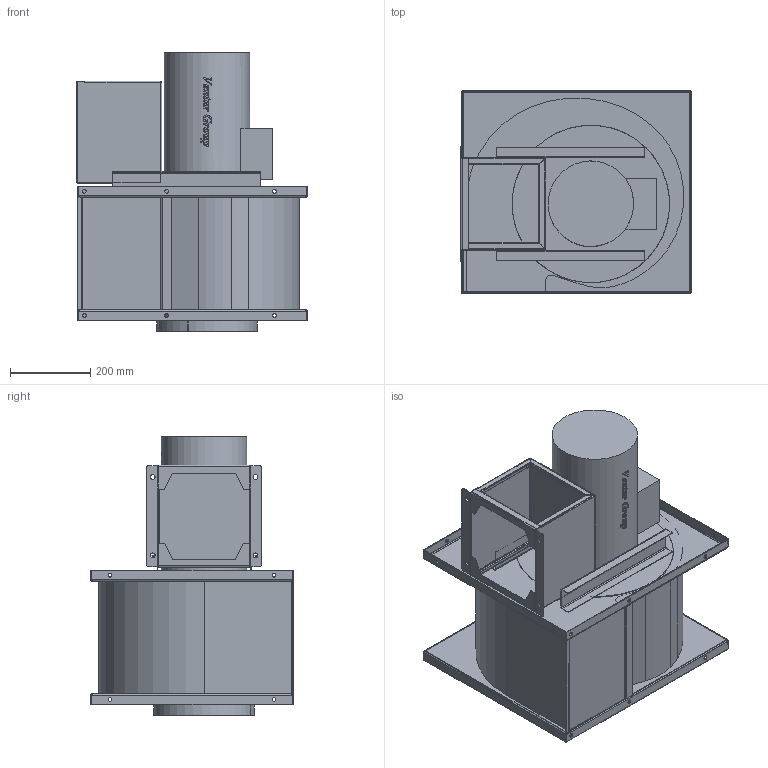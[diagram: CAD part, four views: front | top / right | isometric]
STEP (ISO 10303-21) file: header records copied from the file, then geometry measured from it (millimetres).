
FILE_DESCRIPTION(/* description */ (''),/* implementation_level */ '2;1');
FILE_NAME(/* name */ 'T:\BAZA\BAZA\Modele uproszczone\GMT\GMT_600_550T_LG270_42551860\GMT_600_550T_LG270_42551860.stp',/* time_stamp */ '2016-08-18T12:06:53+02:00',/* author */ ('tomaszm'),/* organization */ (''),/* preprocessor_version */ 'ST-DEVELOPER v16.5',/* originating_system */ 'Autodesk Inventor 2017',/* authorisation */ '');
FILE_SCHEMA (('AUTOMOTIVE_DESIGN { 1 0 10303 214 3 1 1 }'));
Length unit declared in the file: centimetre
Products named in the file (1): GMT-600-550
Bounding box: 574 x 504 x 692.5 mm (x, y, z)
Volume: 76508550.6 mm3; surface area: 2384883.8 mm2
Topology: 1 solids, 1 shells, 866 faces, 2364 edges, 1518 vertices
Faces by surface type: plane 451, bspline 294, cylinder 118, torus 3
Full cylindrical faces by diameter (mm): 9.2 x18, 12 x4, 212.8 x1, 392 x2
Entity records: 30637 total; most frequent: CARTESIAN_POINT 10176, ORIENTED_EDGE 4672, DIRECTION 3218, EDGE_CURVE 2336, VERTEX_POINT 1516, LINE 1360, VECTOR 1360, EDGE_LOOP 972
